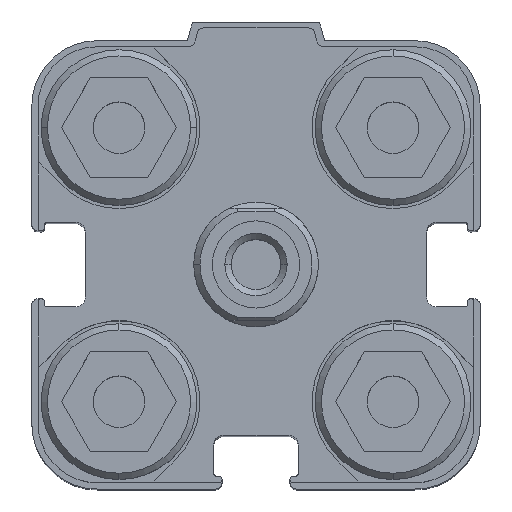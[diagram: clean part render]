
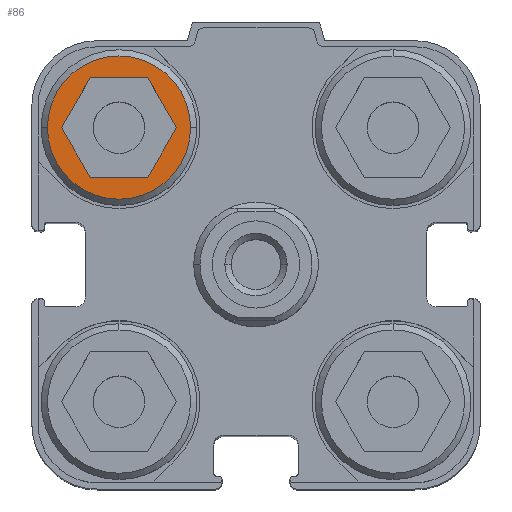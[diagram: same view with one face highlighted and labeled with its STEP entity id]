
A CAD part, top view. The second image highlights one B-rep face of the part: STEP entity #86.
In plain terms, the highlighted planar face has unit normal (0, 0, 1).
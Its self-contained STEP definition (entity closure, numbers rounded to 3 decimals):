
#86 = ADVANCED_FACE ( 'NONE', ( #1383, #1386 ), #5347, .F. ) ;
#585 = AXIS2_PLACEMENT_3D ( 'NONE', #6242, #6243, #6244 ) ;
#701 = AXIS2_PLACEMENT_3D ( 'NONE', #4280, #4281, #4282 ) ;
#961 = CIRCLE ( 'NONE', #585, 5.75 ) ;
#1383 = FACE_BOUND ( 'NONE', #6650, .T. ) ;
#1386 = FACE_OUTER_BOUND ( 'NONE', #6649, .T. ) ;
#1769 = AXIS2_PLACEMENT_3D ( 'NONE', #5343, #5352, #5353 ) ;
#2828 = CIRCLE ( 'NONE', #701, 5.75 ) ;
#2924 = LINE ( 'NONE', #4410, #2927 ) ;
#2927 = VECTOR ( 'NONE', #4412, 1000. ) ;
#2930 = LINE ( 'NONE', #4416, #2933 ) ;
#2933 = VECTOR ( 'NONE', #4418, 1000. ) ;
#2934 = LINE ( 'NONE', #4420, #2937 ) ;
#2937 = VECTOR ( 'NONE', #4422, 1000. ) ;
#2938 = LINE ( 'NONE', #4424, #2941 ) ;
#2941 = VECTOR ( 'NONE', #4426, 1000. ) ;
#2942 = LINE ( 'NONE', #4428, #2945 ) ;
#2945 = VECTOR ( 'NONE', #4430, 1000. ) ;
#2946 = LINE ( 'NONE', #4432, #2949 ) ;
#2949 = VECTOR ( 'NONE', #4434, 1000. ) ;
#4280 = CARTESIAN_POINT ( 'NONE',  ( -11., 11., 55.3 ) ) ;
#4281 = DIRECTION ( 'NONE',  ( 0., 0., 1. ) ) ;
#4282 = DIRECTION ( 'NONE',  ( -1., 0., 0. ) ) ;
#4410 = CARTESIAN_POINT ( 'NONE',  ( -15.619, 11., 55.3 ) ) ;
#4412 = DIRECTION ( 'NONE',  ( -0.5, -0.866, 0. ) ) ;
#4416 = CARTESIAN_POINT ( 'NONE',  ( -14.464, 9., 55.3 ) ) ;
#4418 = DIRECTION ( 'NONE',  ( 0.5, -0.866, 0. ) ) ;
#4420 = CARTESIAN_POINT ( 'NONE',  ( -8.691, 7., 55.3 ) ) ;
#4422 = DIRECTION ( 'NONE',  ( 1., 0., 0. ) ) ;
#4424 = CARTESIAN_POINT ( 'NONE',  ( -6.381, 11., 55.3 ) ) ;
#4426 = DIRECTION ( 'NONE',  ( 0.5, 0.866, 0. ) ) ;
#4428 = CARTESIAN_POINT ( 'NONE',  ( -7.536, 13., 55.3 ) ) ;
#4430 = DIRECTION ( 'NONE',  ( -0.5, 0.866, 0. ) ) ;
#4432 = CARTESIAN_POINT ( 'NONE',  ( -13.309, 15., 55.3 ) ) ;
#4434 = DIRECTION ( 'NONE',  ( -1., 0., 0. ) ) ;
#5343 = CARTESIAN_POINT ( 'NONE',  ( -8.87, 18.949, 55.3 ) ) ;
#5347 = PLANE ( 'NONE',  #1769 ) ;
#5352 = DIRECTION ( 'NONE',  ( 0., 0., -1. ) ) ;
#5353 = DIRECTION ( 'NONE',  ( 0.5, -0.866, 0. ) ) ;
#5820 = CARTESIAN_POINT ( 'NONE',  ( -6.381, 11., 55.3 ) ) ;
#5826 = CARTESIAN_POINT ( 'NONE',  ( -8.691, 15., 55.3 ) ) ;
#5827 = CARTESIAN_POINT ( 'NONE',  ( -13.309, 7., 55.3 ) ) ;
#5829 = CARTESIAN_POINT ( 'NONE',  ( -8.691, 7., 55.3 ) ) ;
#5834 = CARTESIAN_POINT ( 'NONE',  ( -13.309, 15., 55.3 ) ) ;
#5846 = CARTESIAN_POINT ( 'NONE',  ( -15.619, 11., 55.3 ) ) ;
#5921 = CARTESIAN_POINT ( 'NONE',  ( -5.25, 11., 55.3 ) ) ;
#5932 = CARTESIAN_POINT ( 'NONE',  ( -16.75, 11., 55.3 ) ) ;
#6242 = CARTESIAN_POINT ( 'NONE',  ( -11., 11., 55.3 ) ) ;
#6243 = DIRECTION ( 'NONE',  ( 0., 0., 1. ) ) ;
#6244 = DIRECTION ( 'NONE',  ( -1., 0., 0. ) ) ;
#6649 = EDGE_LOOP ( 'NONE', ( #9625, #9626 ) ) ;
#6650 = EDGE_LOOP ( 'NONE', ( #9619, #9620, #9621, #9622, #9623, #9624 ) ) ;
#7357 = EDGE_CURVE ( 'NONE', #9346, #9335, #961, .T. ) ;
#8275 = EDGE_CURVE ( 'NONE', #9335, #9346, #2828, .T. ) ;
#8333 = EDGE_CURVE ( 'NONE', #9248, #9260, #2924, .T. ) ;
#8336 = EDGE_CURVE ( 'NONE', #9260, #9241, #2930, .T. ) ;
#8338 = EDGE_CURVE ( 'NONE', #9241, #9243, #2934, .T. ) ;
#8340 = EDGE_CURVE ( 'NONE', #9243, #9240, #2938, .T. ) ;
#8342 = EDGE_CURVE ( 'NONE', #9240, #9239, #2942, .T. ) ;
#8344 = EDGE_CURVE ( 'NONE', #9239, #9248, #2946, .T. ) ;
#9239 = VERTEX_POINT ( 'NONE', #5826 ) ;
#9240 = VERTEX_POINT ( 'NONE', #5820 ) ;
#9241 = VERTEX_POINT ( 'NONE', #5827 ) ;
#9243 = VERTEX_POINT ( 'NONE', #5829 ) ;
#9248 = VERTEX_POINT ( 'NONE', #5834 ) ;
#9260 = VERTEX_POINT ( 'NONE', #5846 ) ;
#9335 = VERTEX_POINT ( 'NONE', #5921 ) ;
#9346 = VERTEX_POINT ( 'NONE', #5932 ) ;
#9619 = ORIENTED_EDGE ( 'NONE', *, *, #8342, .F. ) ;
#9620 = ORIENTED_EDGE ( 'NONE', *, *, #8340, .F. ) ;
#9621 = ORIENTED_EDGE ( 'NONE', *, *, #8338, .F. ) ;
#9622 = ORIENTED_EDGE ( 'NONE', *, *, #8336, .F. ) ;
#9623 = ORIENTED_EDGE ( 'NONE', *, *, #8333, .F. ) ;
#9624 = ORIENTED_EDGE ( 'NONE', *, *, #8344, .F. ) ;
#9625 = ORIENTED_EDGE ( 'NONE', *, *, #7357, .T. ) ;
#9626 = ORIENTED_EDGE ( 'NONE', *, *, #8275, .T. ) ;
